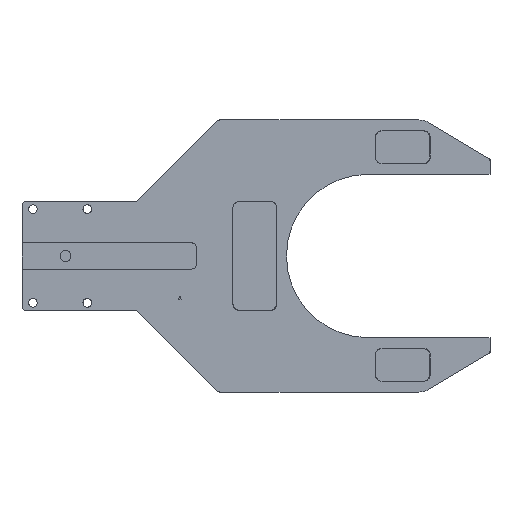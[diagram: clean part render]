
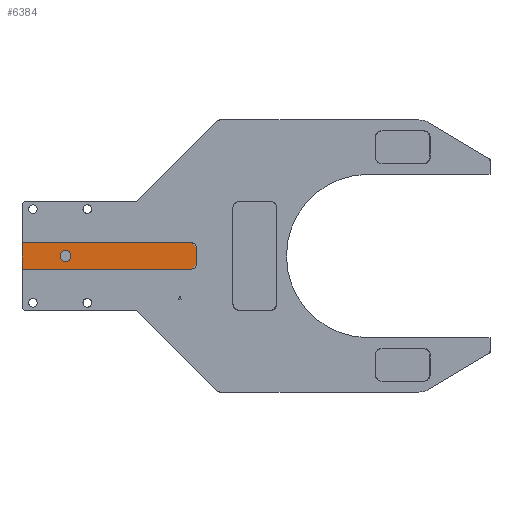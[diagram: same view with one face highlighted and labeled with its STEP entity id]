
A CAD part, top view. The second image highlights one B-rep face of the part: STEP entity #6384.
In plain terms, the highlighted planar face has unit normal (0, 0, 1).
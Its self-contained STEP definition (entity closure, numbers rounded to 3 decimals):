
#645 = VERTEX_POINT('',#646);
#646 = CARTESIAN_POINT('',(17.5,-25.,1.3));
#655 = CYLINDRICAL_SURFACE('',#656,2.5);
#656 = AXIS2_PLACEMENT_3D('',#657,#658,#659);
#657 = CARTESIAN_POINT('',(20.,-25.,3.));
#658 = DIRECTION('',(0.,0.,-1.));
#659 = DIRECTION('',(-1.,0.,0.));
#667 = CYLINDRICAL_SURFACE('',#668,2.5);
#668 = AXIS2_PLACEMENT_3D('',#669,#670,#671);
#669 = CARTESIAN_POINT('',(20.,-25.,3.));
#670 = DIRECTION('',(0.,0.,-1.));
#671 = DIRECTION('',(-1.,0.,0.));
#704 = VERTEX_POINT('',#705);
#705 = CARTESIAN_POINT('',(22.5,-25.,1.3));
#726 = EDGE_CURVE('',#704,#645,#727,.T.);
#727 = SURFACE_CURVE('',#728,(#733,#740),.PCURVE_S1.);
#728 = CIRCLE('',#729,2.5);
#729 = AXIS2_PLACEMENT_3D('',#730,#731,#732);
#730 = CARTESIAN_POINT('',(20.,-25.,1.3));
#731 = DIRECTION('',(0.,-0.,-1.));
#732 = DIRECTION('',(-1.,-0.,0.));
#733 = PCURVE('',#655,#734);
#734 = DEFINITIONAL_REPRESENTATION('',(#735),#739);
#735 = LINE('',#736,#737);
#736 = CARTESIAN_POINT('',(0.,1.7));
#737 = VECTOR('',#738,1.);
#738 = DIRECTION('',(1.,0.));
#739 = ( GEOMETRIC_REPRESENTATION_CONTEXT(2) 
PARAMETRIC_REPRESENTATION_CONTEXT() REPRESENTATION_CONTEXT('2D SPACE',''
  ) );
#740 = PCURVE('',#741,#746);
#741 = PLANE('',#742);
#742 = AXIS2_PLACEMENT_3D('',#743,#744,#745);
#743 = CARTESIAN_POINT('',(0.,0.,1.3));
#744 = DIRECTION('',(0.,0.,-1.));
#745 = DIRECTION('',(-1.,0.,-0.));
#746 = DEFINITIONAL_REPRESENTATION('',(#747),#751);
#747 = CIRCLE('',#748,2.5);
#748 = AXIS2_PLACEMENT_2D('',#749,#750);
#749 = CARTESIAN_POINT('',(-20.,-25.));
#750 = DIRECTION('',(1.,0.));
#751 = ( GEOMETRIC_REPRESENTATION_CONTEXT(2) 
PARAMETRIC_REPRESENTATION_CONTEXT() REPRESENTATION_CONTEXT('2D SPACE',''
  ) );
#1190 = PLANE('',#1191);
#1191 = AXIS2_PLACEMENT_3D('',#1192,#1193,#1194);
#1192 = CARTESIAN_POINT('',(0.,0.,3.));
#1193 = DIRECTION('',(1.,0.,-0.));
#1194 = DIRECTION('',(-0.,0.,-1.));
#3563 = PLANE('',#3564);
#3564 = AXIS2_PLACEMENT_3D('',#3565,#3566,#3567);
#3565 = CARTESIAN_POINT('',(0.,-19.,1.3));
#3566 = DIRECTION('',(-0.,1.,0.));
#3567 = DIRECTION('',(0.,0.,1.));
#3596 = CYLINDRICAL_SURFACE('',#3597,2.);
#3597 = AXIS2_PLACEMENT_3D('',#3598,#3599,#3600);
#3598 = CARTESIAN_POINT('',(78.,-21.,1.3));
#3599 = DIRECTION('',(0.,0.,-1.));
#3600 = DIRECTION('',(-1.,0.,0.));
#3624 = PLANE('',#3625);
#3625 = AXIS2_PLACEMENT_3D('',#3626,#3627,#3628);
#3626 = CARTESIAN_POINT('',(80.,-31.,1.3));
#3627 = DIRECTION('',(1.,-0.,0.));
#3628 = DIRECTION('',(0.,0.,-1.));
#3657 = CYLINDRICAL_SURFACE('',#3658,2.);
#3658 = AXIS2_PLACEMENT_3D('',#3659,#3660,#3661);
#3659 = CARTESIAN_POINT('',(78.,-29.,1.3));
#3660 = DIRECTION('',(0.,0.,-1.));
#3661 = DIRECTION('',(-1.,0.,0.));
#3685 = PLANE('',#3686);
#3686 = AXIS2_PLACEMENT_3D('',#3687,#3688,#3689);
#3687 = CARTESIAN_POINT('',(80.,-31.,1.3));
#3688 = DIRECTION('',(0.,-1.,0.));
#3689 = DIRECTION('',(1.,0.,0.));
#4939 = EDGE_CURVE('',#4940,#4942,#4944,.T.);
#4940 = VERTEX_POINT('',#4941);
#4941 = CARTESIAN_POINT('',(0.,-19.,1.3));
#4942 = VERTEX_POINT('',#4943);
#4943 = CARTESIAN_POINT('',(0.,-31.,1.3));
#4944 = SURFACE_CURVE('',#4945,(#4949,#4956),.PCURVE_S1.);
#4945 = LINE('',#4946,#4947);
#4946 = CARTESIAN_POINT('',(0.,-19.,1.3));
#4947 = VECTOR('',#4948,1.);
#4948 = DIRECTION('',(0.,-1.,0.));
#4949 = PCURVE('',#1190,#4950);
#4950 = DEFINITIONAL_REPRESENTATION('',(#4951),#4955);
#4951 = LINE('',#4952,#4953);
#4952 = CARTESIAN_POINT('',(1.7,-19.));
#4953 = VECTOR('',#4954,1.);
#4954 = DIRECTION('',(-0.,-1.));
#4955 = ( GEOMETRIC_REPRESENTATION_CONTEXT(2) 
PARAMETRIC_REPRESENTATION_CONTEXT() REPRESENTATION_CONTEXT('2D SPACE',''
  ) );
#4956 = PCURVE('',#741,#4957);
#4957 = DEFINITIONAL_REPRESENTATION('',(#4958),#4962);
#4958 = LINE('',#4959,#4960);
#4959 = CARTESIAN_POINT('',(-0.,-19.));
#4960 = VECTOR('',#4961,1.);
#4961 = DIRECTION('',(-0.,-1.));
#4962 = ( GEOMETRIC_REPRESENTATION_CONTEXT(2) 
PARAMETRIC_REPRESENTATION_CONTEXT() REPRESENTATION_CONTEXT('2D SPACE',''
  ) );
#6095 = EDGE_CURVE('',#645,#704,#6096,.T.);
#6096 = SURFACE_CURVE('',#6097,(#6102,#6109),.PCURVE_S1.);
#6097 = CIRCLE('',#6098,2.5);
#6098 = AXIS2_PLACEMENT_3D('',#6099,#6100,#6101);
#6099 = CARTESIAN_POINT('',(20.,-25.,1.3));
#6100 = DIRECTION('',(0.,-0.,-1.));
#6101 = DIRECTION('',(-1.,-0.,0.));
#6102 = PCURVE('',#667,#6103);
#6103 = DEFINITIONAL_REPRESENTATION('',(#6104),#6108);
#6104 = LINE('',#6105,#6106);
#6105 = CARTESIAN_POINT('',(0.,1.7));
#6106 = VECTOR('',#6107,1.);
#6107 = DIRECTION('',(1.,0.));
#6108 = ( GEOMETRIC_REPRESENTATION_CONTEXT(2) 
PARAMETRIC_REPRESENTATION_CONTEXT() REPRESENTATION_CONTEXT('2D SPACE',''
  ) );
#6109 = PCURVE('',#741,#6110);
#6110 = DEFINITIONAL_REPRESENTATION('',(#6111),#6115);
#6111 = CIRCLE('',#6112,2.5);
#6112 = AXIS2_PLACEMENT_2D('',#6113,#6114);
#6113 = CARTESIAN_POINT('',(-20.,-25.));
#6114 = DIRECTION('',(1.,0.));
#6115 = ( GEOMETRIC_REPRESENTATION_CONTEXT(2) 
PARAMETRIC_REPRESENTATION_CONTEXT() REPRESENTATION_CONTEXT('2D SPACE',''
  ) );
#6219 = EDGE_CURVE('',#6220,#4940,#6222,.T.);
#6220 = VERTEX_POINT('',#6221);
#6221 = CARTESIAN_POINT('',(78.,-19.,1.3));
#6222 = SURFACE_CURVE('',#6223,(#6227,#6234),.PCURVE_S1.);
#6223 = LINE('',#6224,#6225);
#6224 = CARTESIAN_POINT('',(0.,-19.,1.3));
#6225 = VECTOR('',#6226,1.);
#6226 = DIRECTION('',(-1.,-0.,-0.));
#6227 = PCURVE('',#3563,#6228);
#6228 = DEFINITIONAL_REPRESENTATION('',(#6229),#6233);
#6229 = LINE('',#6230,#6231);
#6230 = CARTESIAN_POINT('',(0.,0.));
#6231 = VECTOR('',#6232,1.);
#6232 = DIRECTION('',(-0.,-1.));
#6233 = ( GEOMETRIC_REPRESENTATION_CONTEXT(2) 
PARAMETRIC_REPRESENTATION_CONTEXT() REPRESENTATION_CONTEXT('2D SPACE',''
  ) );
#6234 = PCURVE('',#741,#6235);
#6235 = DEFINITIONAL_REPRESENTATION('',(#6236),#6240);
#6236 = LINE('',#6237,#6238);
#6237 = CARTESIAN_POINT('',(-0.,-19.));
#6238 = VECTOR('',#6239,1.);
#6239 = DIRECTION('',(1.,0.));
#6240 = ( GEOMETRIC_REPRESENTATION_CONTEXT(2) 
PARAMETRIC_REPRESENTATION_CONTEXT() REPRESENTATION_CONTEXT('2D SPACE',''
  ) );
#6268 = EDGE_CURVE('',#6269,#6271,#6273,.T.);
#6269 = VERTEX_POINT('',#6270);
#6270 = CARTESIAN_POINT('',(80.,-29.,1.3));
#6271 = VERTEX_POINT('',#6272);
#6272 = CARTESIAN_POINT('',(80.,-21.,1.3));
#6273 = SURFACE_CURVE('',#6274,(#6278,#6285),.PCURVE_S1.);
#6274 = LINE('',#6275,#6276);
#6275 = CARTESIAN_POINT('',(80.,-31.,1.3));
#6276 = VECTOR('',#6277,1.);
#6277 = DIRECTION('',(0.,1.,0.));
#6278 = PCURVE('',#3624,#6279);
#6279 = DEFINITIONAL_REPRESENTATION('',(#6280),#6284);
#6280 = LINE('',#6281,#6282);
#6281 = CARTESIAN_POINT('',(0.,0.));
#6282 = VECTOR('',#6283,1.);
#6283 = DIRECTION('',(0.,1.));
#6284 = ( GEOMETRIC_REPRESENTATION_CONTEXT(2) 
PARAMETRIC_REPRESENTATION_CONTEXT() REPRESENTATION_CONTEXT('2D SPACE',''
  ) );
#6285 = PCURVE('',#741,#6286);
#6286 = DEFINITIONAL_REPRESENTATION('',(#6287),#6291);
#6287 = LINE('',#6288,#6289);
#6288 = CARTESIAN_POINT('',(-80.,-31.));
#6289 = VECTOR('',#6290,1.);
#6290 = DIRECTION('',(0.,1.));
#6291 = ( GEOMETRIC_REPRESENTATION_CONTEXT(2) 
PARAMETRIC_REPRESENTATION_CONTEXT() REPRESENTATION_CONTEXT('2D SPACE',''
  ) );
#6341 = VERTEX_POINT('',#6342);
#6342 = CARTESIAN_POINT('',(78.,-31.,1.3));
#6363 = EDGE_CURVE('',#4942,#6341,#6364,.T.);
#6364 = SURFACE_CURVE('',#6365,(#6369,#6376),.PCURVE_S1.);
#6365 = LINE('',#6366,#6367);
#6366 = CARTESIAN_POINT('',(80.,-31.,1.3));
#6367 = VECTOR('',#6368,1.);
#6368 = DIRECTION('',(1.,0.,-0.));
#6369 = PCURVE('',#3685,#6370);
#6370 = DEFINITIONAL_REPRESENTATION('',(#6371),#6375);
#6371 = LINE('',#6372,#6373);
#6372 = CARTESIAN_POINT('',(0.,0.));
#6373 = VECTOR('',#6374,1.);
#6374 = DIRECTION('',(1.,0.));
#6375 = ( GEOMETRIC_REPRESENTATION_CONTEXT(2) 
PARAMETRIC_REPRESENTATION_CONTEXT() REPRESENTATION_CONTEXT('2D SPACE',''
  ) );
#6376 = PCURVE('',#741,#6377);
#6377 = DEFINITIONAL_REPRESENTATION('',(#6378),#6382);
#6378 = LINE('',#6379,#6380);
#6379 = CARTESIAN_POINT('',(-80.,-31.));
#6380 = VECTOR('',#6381,1.);
#6381 = DIRECTION('',(-1.,0.));
#6382 = ( GEOMETRIC_REPRESENTATION_CONTEXT(2) 
PARAMETRIC_REPRESENTATION_CONTEXT() REPRESENTATION_CONTEXT('2D SPACE',''
  ) );
#6384 = ADVANCED_FACE('',(#6385,#6389),#741,.F.);
#6385 = FACE_BOUND('',#6386,.T.);
#6386 = EDGE_LOOP('',(#6387,#6388));
#6387 = ORIENTED_EDGE('',*,*,#6095,.T.);
#6388 = ORIENTED_EDGE('',*,*,#726,.T.);
#6389 = FACE_BOUND('',#6390,.T.);
#6390 = EDGE_LOOP('',(#6391,#6392,#6418,#6419,#6445,#6446));
#6391 = ORIENTED_EDGE('',*,*,#6363,.T.);
#6392 = ORIENTED_EDGE('',*,*,#6393,.T.);
#6393 = EDGE_CURVE('',#6341,#6269,#6394,.T.);
#6394 = SURFACE_CURVE('',#6395,(#6400,#6411),.PCURVE_S1.);
#6395 = CIRCLE('',#6396,2.);
#6396 = AXIS2_PLACEMENT_3D('',#6397,#6398,#6399);
#6397 = CARTESIAN_POINT('',(78.,-29.,1.3));
#6398 = DIRECTION('',(0.,0.,1.));
#6399 = DIRECTION('',(-1.,0.,-0.));
#6400 = PCURVE('',#741,#6401);
#6401 = DEFINITIONAL_REPRESENTATION('',(#6402),#6410);
#6402 = ( BOUNDED_CURVE() B_SPLINE_CURVE(2,(#6403,#6404,#6405,#6406,
#6407,#6408,#6409),.UNSPECIFIED.,.T.,.F.) B_SPLINE_CURVE_WITH_KNOTS((1,2
    ,2,2,2,1),(-2.094,0.,2.094,4.189,
6.283,8.378),.UNSPECIFIED.) CURVE() 
GEOMETRIC_REPRESENTATION_ITEM() RATIONAL_B_SPLINE_CURVE((1.,0.5,1.,0.5,
1.,0.5,1.)) REPRESENTATION_ITEM('') );
#6403 = CARTESIAN_POINT('',(-76.,-29.));
#6404 = CARTESIAN_POINT('',(-76.,-32.464));
#6405 = CARTESIAN_POINT('',(-79.,-30.732));
#6406 = CARTESIAN_POINT('',(-82.,-29.));
#6407 = CARTESIAN_POINT('',(-79.,-27.268));
#6408 = CARTESIAN_POINT('',(-76.,-25.536));
#6409 = CARTESIAN_POINT('',(-76.,-29.));
#6410 = ( GEOMETRIC_REPRESENTATION_CONTEXT(2) 
PARAMETRIC_REPRESENTATION_CONTEXT() REPRESENTATION_CONTEXT('2D SPACE',''
  ) );
#6411 = PCURVE('',#3657,#6412);
#6412 = DEFINITIONAL_REPRESENTATION('',(#6413),#6417);
#6413 = LINE('',#6414,#6415);
#6414 = CARTESIAN_POINT('',(6.283,0.));
#6415 = VECTOR('',#6416,1.);
#6416 = DIRECTION('',(-1.,0.));
#6417 = ( GEOMETRIC_REPRESENTATION_CONTEXT(2) 
PARAMETRIC_REPRESENTATION_CONTEXT() REPRESENTATION_CONTEXT('2D SPACE',''
  ) );
#6418 = ORIENTED_EDGE('',*,*,#6268,.T.);
#6419 = ORIENTED_EDGE('',*,*,#6420,.T.);
#6420 = EDGE_CURVE('',#6271,#6220,#6421,.T.);
#6421 = SURFACE_CURVE('',#6422,(#6427,#6438),.PCURVE_S1.);
#6422 = CIRCLE('',#6423,2.);
#6423 = AXIS2_PLACEMENT_3D('',#6424,#6425,#6426);
#6424 = CARTESIAN_POINT('',(78.,-21.,1.3));
#6425 = DIRECTION('',(0.,0.,1.));
#6426 = DIRECTION('',(-1.,0.,-0.));
#6427 = PCURVE('',#741,#6428);
#6428 = DEFINITIONAL_REPRESENTATION('',(#6429),#6437);
#6429 = ( BOUNDED_CURVE() B_SPLINE_CURVE(2,(#6430,#6431,#6432,#6433,
#6434,#6435,#6436),.UNSPECIFIED.,.T.,.F.) B_SPLINE_CURVE_WITH_KNOTS((1,2
    ,2,2,2,1),(-2.094,0.,2.094,4.189,
6.283,8.378),.UNSPECIFIED.) CURVE() 
GEOMETRIC_REPRESENTATION_ITEM() RATIONAL_B_SPLINE_CURVE((1.,0.5,1.,0.5,
1.,0.5,1.)) REPRESENTATION_ITEM('') );
#6430 = CARTESIAN_POINT('',(-76.,-21.));
#6431 = CARTESIAN_POINT('',(-76.,-24.464));
#6432 = CARTESIAN_POINT('',(-79.,-22.732));
#6433 = CARTESIAN_POINT('',(-82.,-21.));
#6434 = CARTESIAN_POINT('',(-79.,-19.268));
#6435 = CARTESIAN_POINT('',(-76.,-17.536));
#6436 = CARTESIAN_POINT('',(-76.,-21.));
#6437 = ( GEOMETRIC_REPRESENTATION_CONTEXT(2) 
PARAMETRIC_REPRESENTATION_CONTEXT() REPRESENTATION_CONTEXT('2D SPACE',''
  ) );
#6438 = PCURVE('',#3596,#6439);
#6439 = DEFINITIONAL_REPRESENTATION('',(#6440),#6444);
#6440 = LINE('',#6441,#6442);
#6441 = CARTESIAN_POINT('',(6.283,0.));
#6442 = VECTOR('',#6443,1.);
#6443 = DIRECTION('',(-1.,0.));
#6444 = ( GEOMETRIC_REPRESENTATION_CONTEXT(2) 
PARAMETRIC_REPRESENTATION_CONTEXT() REPRESENTATION_CONTEXT('2D SPACE',''
  ) );
#6445 = ORIENTED_EDGE('',*,*,#6219,.T.);
#6446 = ORIENTED_EDGE('',*,*,#4939,.T.);
